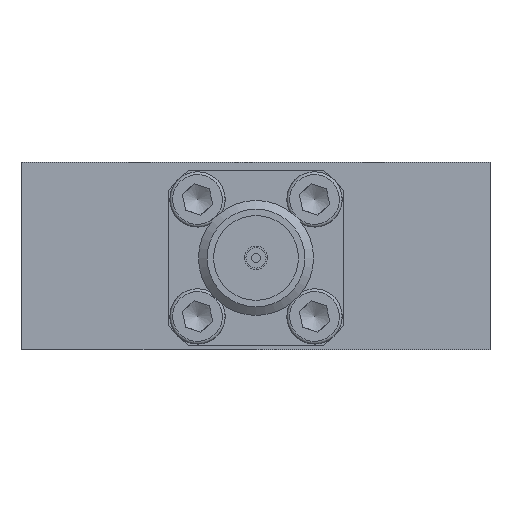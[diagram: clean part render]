
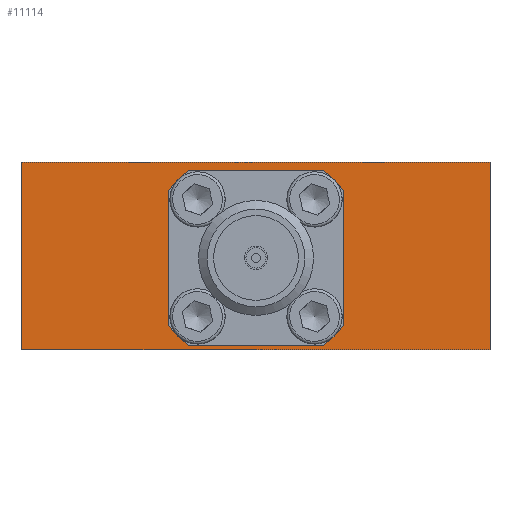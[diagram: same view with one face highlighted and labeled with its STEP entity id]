
A CAD part, front view. The second image highlights one B-rep face of the part: STEP entity #11114.
In plain terms, the highlighted planar face has unit normal (0, -1, 0).
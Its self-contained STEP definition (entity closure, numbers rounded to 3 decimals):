
#353=CIRCLE('',#11671,6.);
#354=CIRCLE('',#11672,6.);
#355=CIRCLE('',#11673,6.);
#356=CIRCLE('',#11674,6.);
#624=ORIENTED_EDGE('',*,*,#2574,.T.);
#625=ORIENTED_EDGE('',*,*,#2575,.T.);
#626=ORIENTED_EDGE('',*,*,#2576,.F.);
#627=ORIENTED_EDGE('',*,*,#2577,.F.);
#628=ORIENTED_EDGE('',*,*,#2578,.F.);
#629=ORIENTED_EDGE('',*,*,#2579,.F.);
#630=ORIENTED_EDGE('',*,*,#2580,.F.);
#631=ORIENTED_EDGE('',*,*,#2581,.F.);
#632=ORIENTED_EDGE('',*,*,#2582,.F.);
#633=ORIENTED_EDGE('',*,*,#2583,.F.);
#634=ORIENTED_EDGE('',*,*,#2584,.F.);
#635=ORIENTED_EDGE('',*,*,#2585,.F.);
#2574=EDGE_CURVE('',#3549,#3550,#4304,.T.);
#2575=EDGE_CURVE('',#3550,#3551,#4305,.T.);
#2576=EDGE_CURVE('',#3552,#3551,#4306,.T.);
#2577=EDGE_CURVE('',#3549,#3552,#4307,.T.);
#2578=EDGE_CURVE('',#3553,#3554,#353,.T.);
#2579=EDGE_CURVE('',#3555,#3553,#4308,.T.);
#2580=EDGE_CURVE('',#3556,#3555,#354,.T.);
#2581=EDGE_CURVE('',#3557,#3556,#4309,.T.);
#2582=EDGE_CURVE('',#3558,#3557,#355,.T.);
#2583=EDGE_CURVE('',#3559,#3558,#4310,.T.);
#2584=EDGE_CURVE('',#3560,#3559,#356,.T.);
#2585=EDGE_CURVE('',#3554,#3560,#4311,.T.);
#3549=VERTEX_POINT('',#14675);
#3550=VERTEX_POINT('',#14676);
#3551=VERTEX_POINT('',#14678);
#3552=VERTEX_POINT('',#14680);
#3553=VERTEX_POINT('',#14683);
#3554=VERTEX_POINT('',#14684);
#3555=VERTEX_POINT('',#14686);
#3556=VERTEX_POINT('',#14688);
#3557=VERTEX_POINT('',#14690);
#3558=VERTEX_POINT('',#14692);
#3559=VERTEX_POINT('',#14694);
#3560=VERTEX_POINT('',#14696);
#4304=LINE('',#14674,#4928);
#4305=LINE('',#14677,#4929);
#4306=LINE('',#14679,#4930);
#4307=LINE('',#14681,#4931);
#4308=LINE('',#14685,#4932);
#4309=LINE('',#14689,#4933);
#4310=LINE('',#14693,#4934);
#4311=LINE('',#14697,#4935);
#4928=VECTOR('',#12466,1000.);
#4929=VECTOR('',#12467,1000.);
#4930=VECTOR('',#12468,1000.);
#4931=VECTOR('',#12469,1000.);
#4932=VECTOR('',#12472,1000.);
#4933=VECTOR('',#12475,1000.);
#4934=VECTOR('',#12478,1000.);
#4935=VECTOR('',#12481,1000.);
#5552=EDGE_LOOP('',(#624,#625,#626,#627));
#5553=EDGE_LOOP('',(#628,#629,#630,#631,#632,#633,#634,#635));
#6332=FACE_BOUND('',#5552,.T.);
#6333=FACE_BOUND('',#5553,.T.);
#7136=PLANE('',#11670);
#11114=ADVANCED_FACE('',(#6332,#6333),#7136,.T.);
#11670=AXIS2_PLACEMENT_3D('',#14673,#12464,#12465);
#11671=AXIS2_PLACEMENT_3D('',#14682,#12470,#12471);
#11672=AXIS2_PLACEMENT_3D('',#14687,#12473,#12474);
#11673=AXIS2_PLACEMENT_3D('',#14691,#12476,#12477);
#11674=AXIS2_PLACEMENT_3D('',#14695,#12479,#12480);
#12464=DIRECTION('',(0.,-1.,0.));
#12465=DIRECTION('',(0.,0.,-1.));
#12466=DIRECTION('',(-1.,0.,0.));
#12467=DIRECTION('',(0.,0.,-1.));
#12468=DIRECTION('',(-1.,0.,0.));
#12469=DIRECTION('',(0.,0.,-1.));
#12470=DIRECTION('',(0.,-1.,0.));
#12471=DIRECTION('',(1.,0.,0.));
#12472=DIRECTION('',(0.,0.,-1.));
#12473=DIRECTION('',(0.,-1.,0.));
#12474=DIRECTION('',(1.,0.,0.));
#12475=DIRECTION('',(-1.,0.,0.));
#12476=DIRECTION('',(0.,-1.,0.));
#12477=DIRECTION('',(1.,0.,0.));
#12478=DIRECTION('',(0.,0.,1.));
#12479=DIRECTION('',(0.,-1.,0.));
#12480=DIRECTION('',(1.,0.,0.));
#12481=DIRECTION('',(1.,0.,0.));
#14673=CARTESIAN_POINT('',(12.7,-7.62,5.7));
#14674=CARTESIAN_POINT('',(12.7,-7.62,10.2));
#14675=CARTESIAN_POINT('',(12.7,-7.62,10.2));
#14676=CARTESIAN_POINT('',(-12.7,-7.62,10.2));
#14677=CARTESIAN_POINT('',(-12.7,-7.62,5.7));
#14678=CARTESIAN_POINT('',(-12.7,-7.62,0.));
#14679=CARTESIAN_POINT('',(12.7,-7.62,0.));
#14680=CARTESIAN_POINT('',(12.7,-7.62,0.));
#14681=CARTESIAN_POINT('',(12.7,-7.62,5.7));
#14682=CARTESIAN_POINT('',(0.,-7.62,4.995));
#14683=CARTESIAN_POINT('',(-4.75,-7.62,1.329));
#14684=CARTESIAN_POINT('',(-3.666,-7.62,0.245));
#14685=CARTESIAN_POINT('',(-4.75,-7.62,8.661));
#14686=CARTESIAN_POINT('',(-4.75,-7.62,8.661));
#14687=CARTESIAN_POINT('',(0.,-7.62,4.995));
#14688=CARTESIAN_POINT('',(-3.666,-7.62,9.745));
#14689=CARTESIAN_POINT('',(3.666,-7.62,9.745));
#14690=CARTESIAN_POINT('',(3.666,-7.62,9.745));
#14691=CARTESIAN_POINT('',(0.,-7.62,4.995));
#14692=CARTESIAN_POINT('',(4.75,-7.62,8.661));
#14693=CARTESIAN_POINT('',(4.75,-7.62,1.329));
#14694=CARTESIAN_POINT('',(4.75,-7.62,1.329));
#14695=CARTESIAN_POINT('',(0.,-7.62,4.995));
#14696=CARTESIAN_POINT('',(3.666,-7.62,0.245));
#14697=CARTESIAN_POINT('',(-3.666,-7.62,0.245));
